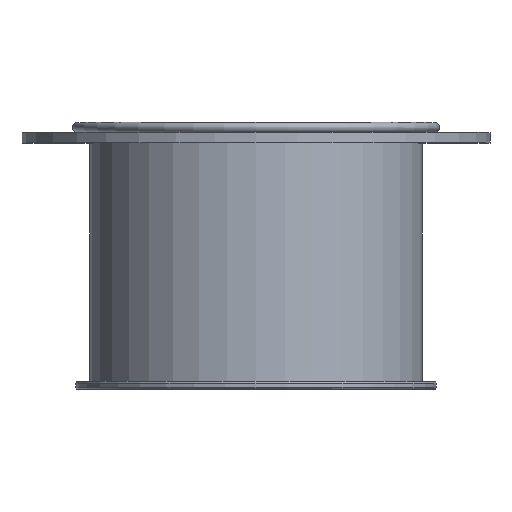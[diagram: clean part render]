
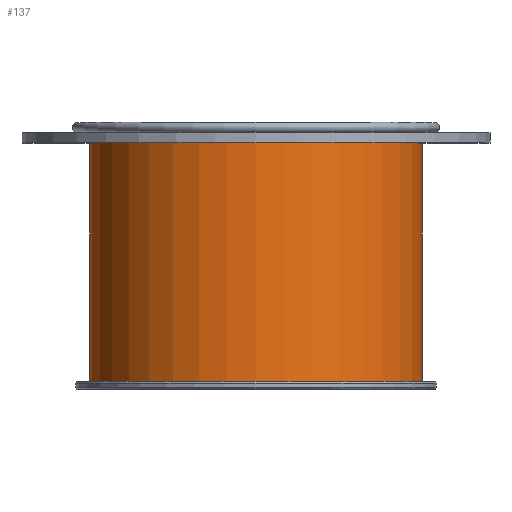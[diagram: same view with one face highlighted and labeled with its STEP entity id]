
A CAD part, top view. The second image highlights one B-rep face of the part: STEP entity #137.
In plain terms, the highlighted cylindrical face has radius 63.3 mm (diameter 126.6 mm), a full revolution.
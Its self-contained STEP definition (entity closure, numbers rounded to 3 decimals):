
#137=ADVANCED_FACE('',(#207,#208),#155,.T.);
#155=CYLINDRICAL_SURFACE('',#496,63.3);
#207=FACE_BOUND('',#271,.T.);
#208=FACE_BOUND('',#272,.T.);
#271=EDGE_LOOP('',(#335));
#272=EDGE_LOOP('',(#336));
#335=ORIENTED_EDGE('',*,*,#409,.T.);
#336=ORIENTED_EDGE('',*,*,#408,.F.);
#376=VERTEX_POINT('',#704);
#377=VERTEX_POINT('',#707);
#408=EDGE_CURVE('',#376,#376,#440,.T.);
#409=EDGE_CURVE('',#377,#377,#441,.T.);
#440=CIRCLE('',#493,63.3);
#441=CIRCLE('',#495,63.3);
#493=AXIS2_PLACEMENT_3D('',#703,#602,#603);
#495=AXIS2_PLACEMENT_3D('',#706,#606,#607);
#496=AXIS2_PLACEMENT_3D('',#708,#608,#609);
#602=DIRECTION('',(0.,1.,0.));
#603=DIRECTION('',(1.,0.,0.));
#606=DIRECTION('',(0.,1.,0.));
#607=DIRECTION('',(1.,0.,0.));
#608=DIRECTION('',(0.,1.,0.));
#609=DIRECTION('',(1.,0.,0.));
#703=CARTESIAN_POINT('',(0.,99.2,0.));
#704=CARTESIAN_POINT('',(63.3,99.2,0.));
#706=CARTESIAN_POINT('',(0.,3.,0.));
#707=CARTESIAN_POINT('',(63.3,3.,0.));
#708=CARTESIAN_POINT('',(0.,-192.076,0.));
